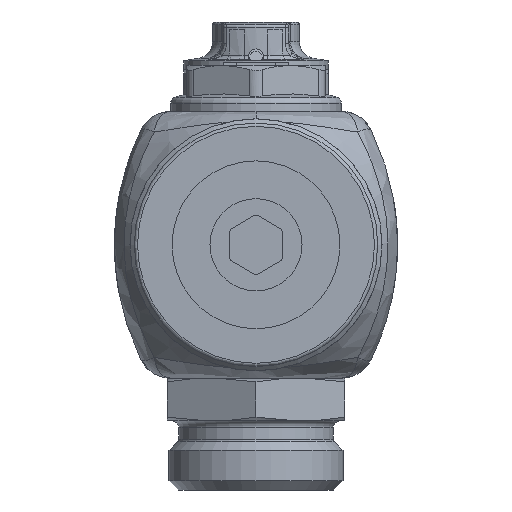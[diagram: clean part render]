
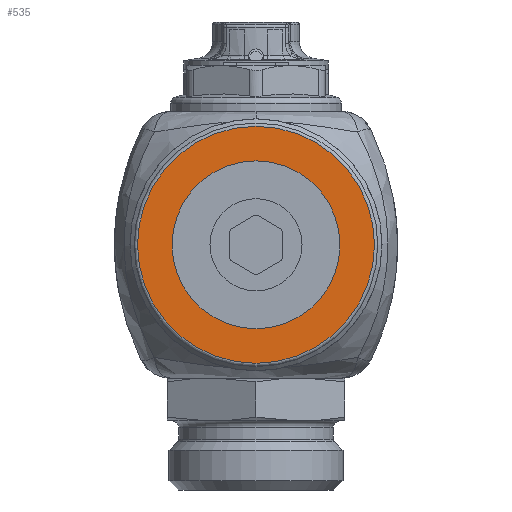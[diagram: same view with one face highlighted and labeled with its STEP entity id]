
A CAD part, front view. The second image highlights one B-rep face of the part: STEP entity #535.
In plain terms, the highlighted planar face has unit normal (0, -1, 0).
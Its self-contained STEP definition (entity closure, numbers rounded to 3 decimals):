
#535=ADVANCED_FACE('',(#13125,#13127),#13129,.F.);
#13125=FACE_BOUND('',#13126,.T.);
#13126=EDGE_LOOP('',(#16289));
#13127=FACE_BOUND('',#13128,.T.);
#13128=EDGE_LOOP('',(#16290));
#13129=PLANE('',#13130);
#13130=AXIS2_PLACEMENT_3D('',#13131,#13132,#13133);
#13131=CARTESIAN_POINT('',(0.,-170.75,0.));
#13132=DIRECTION('',(0.,1.,0.));
#13133=DIRECTION('',(-1.,0.,0.));
#16289=ORIENTED_EDGE('',*,*,#23518,.T.);
#16290=ORIENTED_EDGE('',*,*,#23553,.T.);
#23518=EDGE_CURVE('',#26530,#26530,#26531,.T.);
#23553=EDGE_CURVE('',#26589,#26589,#26590,.F.);
#26530=VERTEX_POINT('',#40849);
#26531=CIRCLE('',#40850,18.);
#26589=VERTEX_POINT('',#40992);
#26590=CIRCLE('',#40993,12.75);
#40849=CARTESIAN_POINT('',(18.,-170.75,0.));
#40850=AXIS2_PLACEMENT_3D('',#40851,#40852,#40853);
#40851=CARTESIAN_POINT('',(0.,-170.75,0.));
#40852=DIRECTION('',(0.,-1.,0.));
#40853=DIRECTION('',(1.,0.,0.));
#40992=CARTESIAN_POINT('',(12.75,-170.75,0.));
#40993=AXIS2_PLACEMENT_3D('',#40994,#40995,#40996);
#40994=CARTESIAN_POINT('',(0.,-170.75,0.));
#40995=DIRECTION('',(0.,-1.,0.));
#40996=DIRECTION('',(1.,0.,0.));
